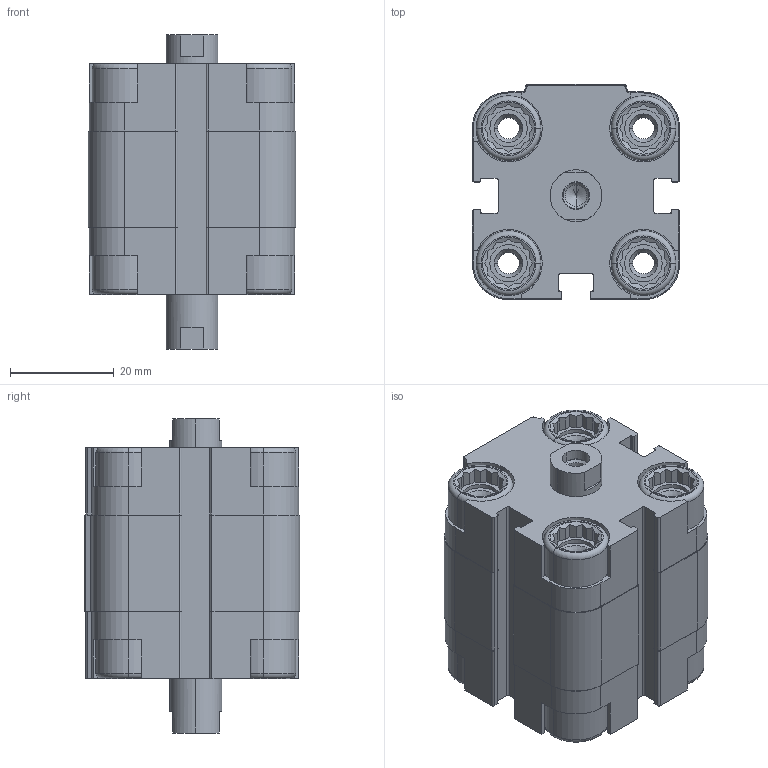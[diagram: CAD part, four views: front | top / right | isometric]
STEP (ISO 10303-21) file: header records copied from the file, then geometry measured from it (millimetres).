
FILE_DESCRIPTION (( 'STEP AP203' ), '1' );
FILE_NAME ('CDVU25-5F-P.STEP', '2020-07-24T18:08:50', ( '' ), ( '' ), 'SwSTEP 2.0', 'SolidWorks 2019', '' );
FILE_SCHEMA (( 'CONFIG_CONTROL_DESIGN' ));
Length unit declared in the file: millimetre
Products named in the file (1): CDVU25-5F-P
Bounding box: 40 x 41.5 x 60.5 mm (x, y, z)
Volume: 58157.8 mm3; surface area: 23520.9 mm2
Topology: 2 solids, 2 shells, 596 faces, 1574 edges, 1016 vertices
Faces by surface type: plane 356, cylinder 176, cone 48, torus 16
Entity records: 18577 total; most frequent: CARTESIAN_POINT 3755, ORIENTED_EDGE 3132, DIRECTION 3000, EDGE_CURVE 1566, AXIS2_PLACEMENT_3D 1029, VERTEX_POINT 1016, VECTOR 942, LINE 942
